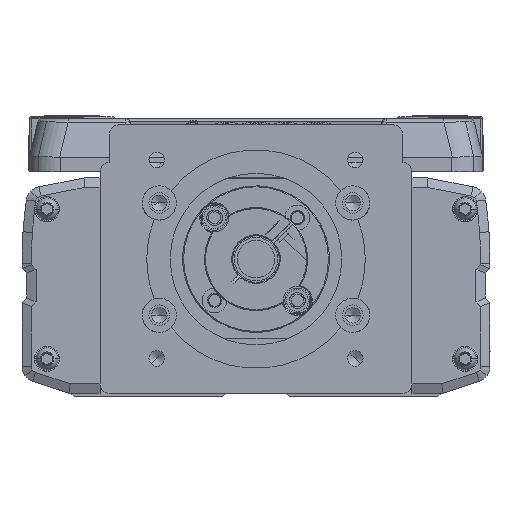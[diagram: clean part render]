
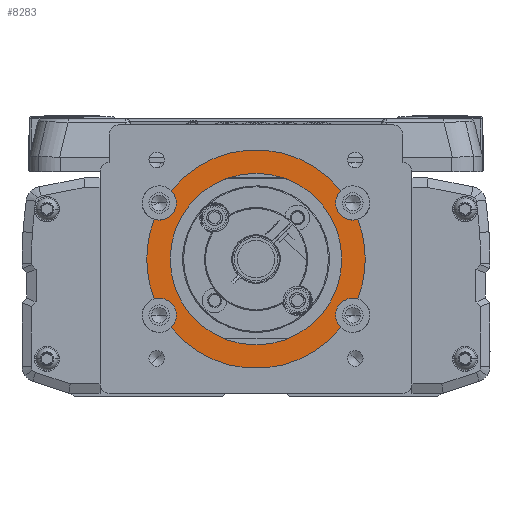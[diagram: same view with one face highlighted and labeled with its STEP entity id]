
A CAD part, left-side view. The second image highlights one B-rep face of the part: STEP entity #8283.
In plain terms, the highlighted planar face has unit normal (-1, 0, 0).
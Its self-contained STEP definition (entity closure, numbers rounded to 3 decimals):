
#8283=ADVANCED_FACE('',(#17235,#17236),#17237,.F.);
#17235=FACE_OUTER_BOUND('',#28195,.T.);
#17236=FACE_BOUND('',#28196,.T.);
#17237=PLANE('',#28197);
#28195=EDGE_LOOP('',(#52137,#52138,#52139,#52140,#52141,#52142,#52143,#52144,#52145,#52146,#52147,#52148,#52149,#52150));
#28196=EDGE_LOOP('',(#52151,#52152));
#28197=AXIS2_PLACEMENT_3D('',#52153,#52154,#52155);
#52137=ORIENTED_EDGE('',*,*,#67310,.F.);
#52138=ORIENTED_EDGE('',*,*,#66012,.T.);
#52139=ORIENTED_EDGE('',*,*,#64994,.T.);
#52140=ORIENTED_EDGE('',*,*,#66438,.F.);
#52141=ORIENTED_EDGE('',*,*,#61677,.F.);
#52142=ORIENTED_EDGE('',*,*,#67532,.T.);
#52143=ORIENTED_EDGE('',*,*,#64212,.F.);
#52144=ORIENTED_EDGE('',*,*,#66901,.F.);
#52145=ORIENTED_EDGE('',*,*,#58025,.T.);
#52146=ORIENTED_EDGE('',*,*,#67469,.T.);
#52147=ORIENTED_EDGE('',*,*,#64141,.F.);
#52148=ORIENTED_EDGE('',*,*,#67533,.F.);
#52149=ORIENTED_EDGE('',*,*,#67534,.T.);
#52150=ORIENTED_EDGE('',*,*,#61157,.F.);
#52151=ORIENTED_EDGE('',*,*,#61790,.F.);
#52152=ORIENTED_EDGE('',*,*,#63828,.F.);
#52153=CARTESIAN_POINT('',(-69.,0.,0.));
#52154=DIRECTION('',(1.0,0.,0.));
#52155=DIRECTION('',(0.,1.0,0.));
#58025=EDGE_CURVE('',#68650,#68648,#68651,.T.);
#61157=EDGE_CURVE('',#74082,#74084,#74085,.T.);
#61677=EDGE_CURVE('',#74929,#74931,#74932,.T.);
#61790=EDGE_CURVE('',#75109,#75107,#75111,.T.);
#63828=EDGE_CURVE('',#75107,#75109,#78243,.T.);
#64141=EDGE_CURVE('',#78691,#78693,#78694,.T.);
#64212=EDGE_CURVE('',#78792,#78794,#78795,.T.);
#64994=EDGE_CURVE('',#79878,#79880,#79882,.T.);
#66012=EDGE_CURVE('',#81253,#79878,#81254,.T.);
#66438=EDGE_CURVE('',#74931,#79880,#81792,.T.);
#66901=EDGE_CURVE('',#68650,#78792,#82347,.T.);
#67310=EDGE_CURVE('',#81253,#74082,#82813,.T.);
#67469=EDGE_CURVE('',#68648,#78693,#82989,.T.);
#67532=EDGE_CURVE('',#74929,#78794,#83054,.T.);
#67533=EDGE_CURVE('',#83055,#78691,#83056,.T.);
#67534=EDGE_CURVE('',#83055,#74084,#83057,.T.);
#68648=VERTEX_POINT('',#84265);
#68650=VERTEX_POINT('',#84268);
#68651=CIRCLE('',#84269,35.0);
#74082=VERTEX_POINT('',#91747);
#74084=VERTEX_POINT('',#91750);
#74085=CIRCLE('',#91751,5.5);
#74929=VERTEX_POINT('',#92853);
#74931=VERTEX_POINT('',#92856);
#74932=CIRCLE('',#92857,5.5);
#75107=VERTEX_POINT('',#93080);
#75109=VERTEX_POINT('',#93083);
#75111=CIRCLE('',#93086,27.5);
#78243=CIRCLE('',#98206,27.5);
#78691=VERTEX_POINT('',#98822);
#78693=VERTEX_POINT('',#98825);
#78694=CIRCLE('',#98826,5.5);
#78792=VERTEX_POINT('',#98958);
#78794=VERTEX_POINT('',#98961);
#78795=CIRCLE('',#98962,5.5);
#79878=VERTEX_POINT('',#100479);
#79880=VERTEX_POINT('',#100482);
#79882=CIRCLE('',#100485,35.0);
#81253=VERTEX_POINT('',#102362);
#81254=CIRCLE('',#102363,35.0);
#81792=CIRCLE('',#103094,5.5);
#82347=CIRCLE('',#103903,5.5);
#82813=CIRCLE('',#104596,5.5);
#82989=CIRCLE('',#104856,35.0);
#83054=CIRCLE('',#104964,35.0);
#83055=VERTEX_POINT('',#104965);
#83056=CIRCLE('',#104966,5.5);
#83057=CIRCLE('',#104967,35.0);
#84265=CARTESIAN_POINT('',(-69.,-35.,0.));
#84268=CARTESIAN_POINT('',(-69.,-32.6,-12.738));
#84269=AXIS2_PLACEMENT_3D('',#106482,#106483,#106484);
#91747=CARTESIAN_POINT('',(-69.,25.5,18.));
#91750=CARTESIAN_POINT('',(-69.,27.223,21.998));
#91751=AXIS2_PLACEMENT_3D('',#111230,#111231,#111232);
#92853=CARTESIAN_POINT('',(-69.,27.223,-21.998));
#92856=CARTESIAN_POINT('',(-69.,25.5,-18.));
#92857=AXIS2_PLACEMENT_3D('',#112098,#112099,#112100);
#93080=CARTESIAN_POINT('',(-69.,27.5,0.));
#93083=CARTESIAN_POINT('',(-69.,-27.5,0.));
#93086=AXIS2_PLACEMENT_3D('',#112262,#112263,#112264);
#98206=AXIS2_PLACEMENT_3D('',#115159,#115160,#115161);
#98822=CARTESIAN_POINT('',(-69.,-25.5,18.));
#98825=CARTESIAN_POINT('',(-69.,-32.6,12.738));
#98826=AXIS2_PLACEMENT_3D('',#115611,#115612,#115613);
#98958=CARTESIAN_POINT('',(-69.,-25.5,-18.));
#98961=CARTESIAN_POINT('',(-69.,-27.223,-21.998));
#98962=AXIS2_PLACEMENT_3D('',#115706,#115707,#115708);
#100479=CARTESIAN_POINT('',(-69.,35.,0.));
#100482=CARTESIAN_POINT('',(-69.,32.6,-12.738));
#100485=AXIS2_PLACEMENT_3D('',#116807,#116808,#116809);
#102362=CARTESIAN_POINT('',(-69.,32.6,12.738));
#102363=AXIS2_PLACEMENT_3D('',#118176,#118177,#118178);
#103094=AXIS2_PLACEMENT_3D('',#118706,#118707,#118708);
#103903=AXIS2_PLACEMENT_3D('',#119248,#119249,#119250);
#104596=AXIS2_PLACEMENT_3D('',#119675,#119676,#119677);
#104856=AXIS2_PLACEMENT_3D('',#119839,#119840,#119841);
#104964=AXIS2_PLACEMENT_3D('',#119889,#119890,#119891);
#104965=CARTESIAN_POINT('',(-69.,-27.223,21.998));
#104966=AXIS2_PLACEMENT_3D('',#119892,#119893,#119894);
#104967=AXIS2_PLACEMENT_3D('',#119895,#119896,#119897);
#106482=CARTESIAN_POINT('',(-69.,0.,0.));
#106483=DIRECTION('',(-1.0,0.,0.));
#106484=DIRECTION('',(0.,1.0,0.));
#111230=CARTESIAN_POINT('',(-69.,31.,18.));
#111231=DIRECTION('',(-1.0,0.,0.));
#111232=DIRECTION('',(0.,1.0,0.));
#112098=CARTESIAN_POINT('',(-69.,31.,-18.));
#112099=DIRECTION('',(-1.0,0.,0.));
#112100=DIRECTION('',(0.,1.0,0.));
#112262=CARTESIAN_POINT('',(-69.,0.,0.));
#112263=DIRECTION('',(-1.0,0.,0.));
#112264=DIRECTION('',(0.,1.0,0.));
#115159=CARTESIAN_POINT('',(-69.,0.,0.));
#115160=DIRECTION('',(-1.0,0.,0.));
#115161=DIRECTION('',(0.,1.0,0.));
#115611=CARTESIAN_POINT('',(-69.,-31.,18.));
#115612=DIRECTION('',(-1.0,0.,0.));
#115613=DIRECTION('',(0.,-1.0,0.));
#115706=CARTESIAN_POINT('',(-69.,-31.,-18.));
#115707=DIRECTION('',(-1.0,0.,0.));
#115708=DIRECTION('',(0.,-1.0,0.));
#116807=CARTESIAN_POINT('',(-69.,0.,0.));
#116808=DIRECTION('',(-1.0,0.,0.));
#116809=DIRECTION('',(0.,1.0,0.));
#118176=CARTESIAN_POINT('',(-69.,0.,0.));
#118177=DIRECTION('',(-1.0,0.,0.));
#118178=DIRECTION('',(0.,1.0,0.));
#118706=CARTESIAN_POINT('',(-69.,31.,-18.));
#118707=DIRECTION('',(-1.0,0.,0.));
#118708=DIRECTION('',(0.,1.0,0.));
#119248=CARTESIAN_POINT('',(-69.,-31.,-18.));
#119249=DIRECTION('',(-1.0,0.,0.));
#119250=DIRECTION('',(0.,-1.0,0.));
#119675=CARTESIAN_POINT('',(-69.,31.,18.));
#119676=DIRECTION('',(-1.0,0.,0.));
#119677=DIRECTION('',(0.,1.0,0.));
#119839=CARTESIAN_POINT('',(-69.,0.,0.));
#119840=DIRECTION('',(-1.0,0.,0.));
#119841=DIRECTION('',(0.,1.0,0.));
#119889=CARTESIAN_POINT('',(-69.,0.,0.));
#119890=DIRECTION('',(-1.0,0.,0.));
#119891=DIRECTION('',(0.,1.0,0.));
#119892=CARTESIAN_POINT('',(-69.,-31.,18.));
#119893=DIRECTION('',(-1.0,0.,0.));
#119894=DIRECTION('',(0.,-1.0,0.));
#119895=CARTESIAN_POINT('',(-69.,0.,0.));
#119896=DIRECTION('',(-1.0,0.,0.));
#119897=DIRECTION('',(0.,1.0,0.));
